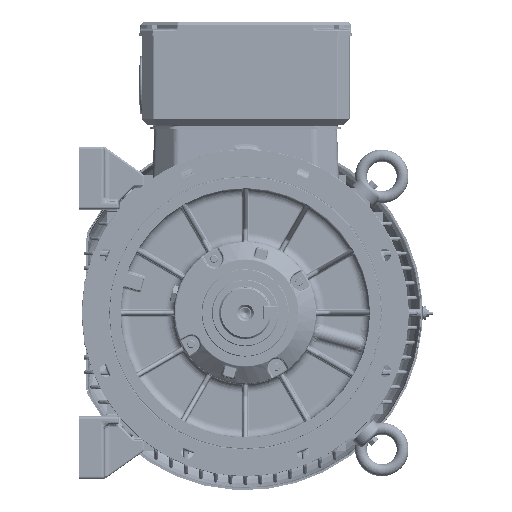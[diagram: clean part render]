
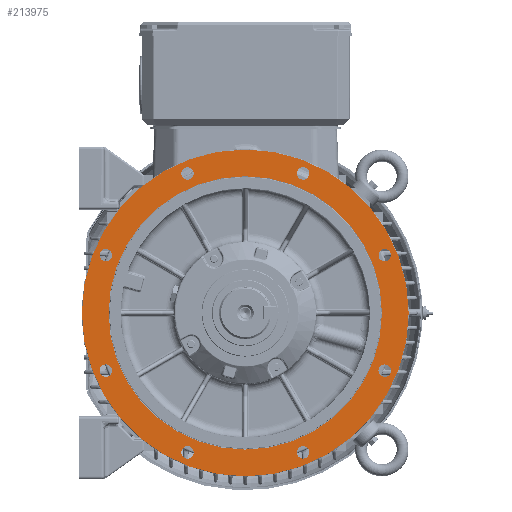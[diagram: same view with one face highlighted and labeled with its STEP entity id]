
A CAD part, front view. The second image highlights one B-rep face of the part: STEP entity #213975.
In plain terms, the highlighted planar face has unit normal (0, -1, 0).
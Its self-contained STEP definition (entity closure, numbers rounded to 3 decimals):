
#12617=CIRCLE('',#317838,10.5);
#12619=CIRCLE('',#317841,10.5);
#12621=CIRCLE('',#317844,10.5);
#12623=CIRCLE('',#317847,10.5);
#12625=CIRCLE('',#317850,10.5);
#12627=CIRCLE('',#317853,10.5);
#12629=CIRCLE('',#317856,10.5);
#12631=CIRCLE('',#317859,10.5);
#12645=CIRCLE('',#317881,230.);
#12646=CIRCLE('',#317883,275.);
#102703=ORIENTED_EDGE('',*,*,#138513,.T.);
#102704=ORIENTED_EDGE('',*,*,#138512,.F.);
#102705=ORIENTED_EDGE('',*,*,#138497,.F.);
#102706=ORIENTED_EDGE('',*,*,#138495,.F.);
#102707=ORIENTED_EDGE('',*,*,#138493,.F.);
#102708=ORIENTED_EDGE('',*,*,#138491,.F.);
#102709=ORIENTED_EDGE('',*,*,#138489,.F.);
#102710=ORIENTED_EDGE('',*,*,#138487,.F.);
#102711=ORIENTED_EDGE('',*,*,#138485,.F.);
#102712=ORIENTED_EDGE('',*,*,#138483,.F.);
#138483=EDGE_CURVE('',#159728,#159728,#12617,.T.);
#138485=EDGE_CURVE('',#159730,#159730,#12619,.T.);
#138487=EDGE_CURVE('',#159732,#159732,#12621,.T.);
#138489=EDGE_CURVE('',#159734,#159734,#12623,.T.);
#138491=EDGE_CURVE('',#159736,#159736,#12625,.T.);
#138493=EDGE_CURVE('',#159738,#159738,#12627,.T.);
#138495=EDGE_CURVE('',#159740,#159740,#12629,.T.);
#138497=EDGE_CURVE('',#159742,#159742,#12631,.T.);
#138512=EDGE_CURVE('',#159757,#159757,#12645,.T.);
#138513=EDGE_CURVE('',#159758,#159758,#12646,.T.);
#159728=VERTEX_POINT('',#488566);
#159730=VERTEX_POINT('',#488571);
#159732=VERTEX_POINT('',#488576);
#159734=VERTEX_POINT('',#488581);
#159736=VERTEX_POINT('',#488586);
#159738=VERTEX_POINT('',#488591);
#159740=VERTEX_POINT('',#488596);
#159742=VERTEX_POINT('',#488601);
#159757=VERTEX_POINT('',#488657);
#159758=VERTEX_POINT('',#488660);
#179590=EDGE_LOOP('',(#102703));
#179591=EDGE_LOOP('',(#102704));
#179592=EDGE_LOOP('',(#102705));
#179593=EDGE_LOOP('',(#102706));
#179594=EDGE_LOOP('',(#102707));
#179595=EDGE_LOOP('',(#102708));
#179596=EDGE_LOOP('',(#102709));
#179597=EDGE_LOOP('',(#102710));
#179598=EDGE_LOOP('',(#102711));
#179599=EDGE_LOOP('',(#102712));
#195153=FACE_BOUND('',#179590,.T.);
#195154=FACE_BOUND('',#179591,.T.);
#195155=FACE_BOUND('',#179592,.T.);
#195156=FACE_BOUND('',#179593,.T.);
#195157=FACE_BOUND('',#179594,.T.);
#195158=FACE_BOUND('',#179595,.T.);
#195159=FACE_BOUND('',#179596,.T.);
#195160=FACE_BOUND('',#179597,.T.);
#195161=FACE_BOUND('',#179598,.T.);
#195162=FACE_BOUND('',#179599,.T.);
#203121=PLANE('',#317882);
#213975=ADVANCED_FACE('',(#195153,#195154,#195155,#195156,#195157,#195158,
#195159,#195160,#195161,#195162),#203121,.F.);
#317838=AXIS2_PLACEMENT_3D('',#488565,#369495,#369496);
#317841=AXIS2_PLACEMENT_3D('',#488570,#369501,#369502);
#317844=AXIS2_PLACEMENT_3D('',#488575,#369507,#369508);
#317847=AXIS2_PLACEMENT_3D('',#488580,#369513,#369514);
#317850=AXIS2_PLACEMENT_3D('',#488585,#369519,#369520);
#317853=AXIS2_PLACEMENT_3D('',#488590,#369525,#369526);
#317856=AXIS2_PLACEMENT_3D('',#488595,#369531,#369532);
#317859=AXIS2_PLACEMENT_3D('',#488600,#369537,#369538);
#317881=AXIS2_PLACEMENT_3D('',#488656,#369581,#369582);
#317882=AXIS2_PLACEMENT_3D('',#488658,#369583,#369584);
#317883=AXIS2_PLACEMENT_3D('',#488659,#369585,#369586);
#369495=DIRECTION('',(0.,-1.,0.));
#369496=DIRECTION('',(0.,0.,-1.));
#369501=DIRECTION('',(0.,-1.,0.));
#369502=DIRECTION('',(0.,0.,-1.));
#369507=DIRECTION('',(0.,-1.,0.));
#369508=DIRECTION('',(0.,0.,-1.));
#369513=DIRECTION('',(0.,-1.,0.));
#369514=DIRECTION('',(0.,0.,-1.));
#369519=DIRECTION('',(0.,-1.,0.));
#369520=DIRECTION('',(0.,0.,-1.));
#369525=DIRECTION('',(0.,-1.,0.));
#369526=DIRECTION('',(0.,0.,-1.));
#369531=DIRECTION('',(0.,-1.,0.));
#369532=DIRECTION('',(0.,0.,-1.));
#369537=DIRECTION('',(0.,-1.,0.));
#369538=DIRECTION('',(0.,0.,-1.));
#369581=DIRECTION('',(0.,-1.,0.));
#369582=DIRECTION('',(-1.,0.,0.));
#369583=DIRECTION('',(0.,1.,0.));
#369584=DIRECTION('',(1.,0.,0.));
#369585=DIRECTION('',(0.,-1.,0.));
#369586=DIRECTION('',(-1.,0.,0.));
#488565=CARTESIAN_POINT('',(97.202,-105.,-234.665));
#488566=CARTESIAN_POINT('',(97.202,-105.,-245.165));
#488570=CARTESIAN_POINT('',(-97.202,-105.,-234.665));
#488571=CARTESIAN_POINT('',(-97.202,-105.,-245.165));
#488575=CARTESIAN_POINT('',(-234.665,-105.,-97.202));
#488576=CARTESIAN_POINT('',(-234.665,-105.,-107.702));
#488580=CARTESIAN_POINT('',(-234.665,-105.,97.202));
#488581=CARTESIAN_POINT('',(-234.665,-105.,86.702));
#488585=CARTESIAN_POINT('',(-97.202,-105.,234.665));
#488586=CARTESIAN_POINT('',(-97.202,-105.,224.165));
#488590=CARTESIAN_POINT('',(97.202,-105.,234.665));
#488591=CARTESIAN_POINT('',(97.202,-105.,224.165));
#488595=CARTESIAN_POINT('',(234.665,-105.,97.202));
#488596=CARTESIAN_POINT('',(234.665,-105.,86.702));
#488600=CARTESIAN_POINT('',(234.665,-105.,-97.202));
#488601=CARTESIAN_POINT('',(234.665,-105.,-107.702));
#488656=CARTESIAN_POINT('',(0.,-105.,0.));
#488657=CARTESIAN_POINT('',(-230.,-105.,0.));
#488658=CARTESIAN_POINT('',(230.,-105.,0.));
#488659=CARTESIAN_POINT('',(0.,-105.,0.));
#488660=CARTESIAN_POINT('',(-275.,-105.,0.));
